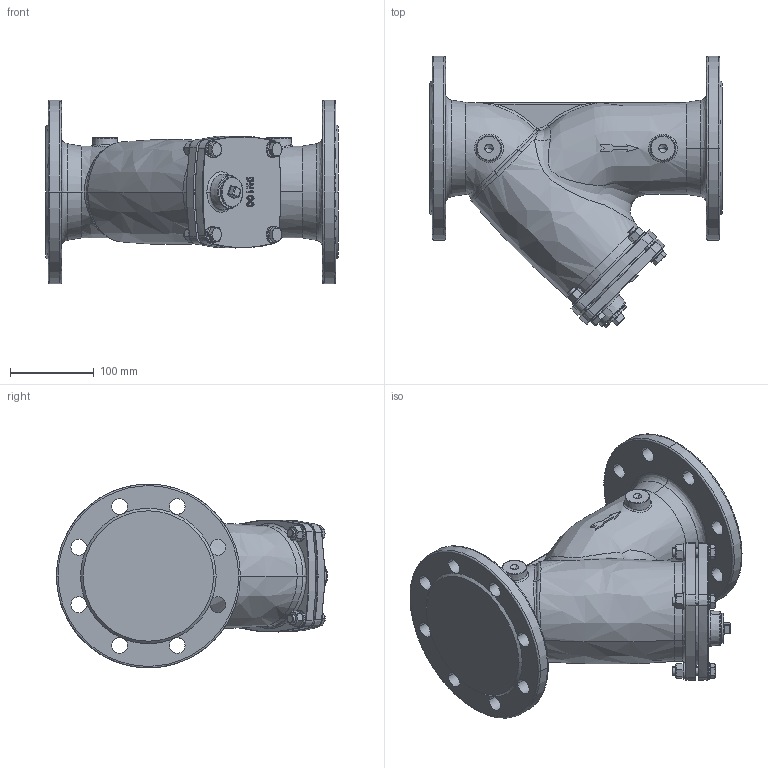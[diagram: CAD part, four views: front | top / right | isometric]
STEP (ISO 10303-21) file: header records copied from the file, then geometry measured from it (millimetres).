
FILE_DESCRIPTION (( 'STEP AP203' ), '1' );
FILE_NAME ('11.000C DN100.STEP', '2022-09-05T08:34:51', ( '' ), ( '' ), 'SwSTEP 2.0', 'SolidWorks 2017', '' );
FILE_SCHEMA (( 'CONFIG_CONTROL_DESIGN' ));
Length unit declared in the file: millimetre
Products named in the file (1): 11.000C DN100
Bounding box: 350 x 324.37 x 220 mm (x, y, z)
Volume: 6229315.6 mm3; surface area: 389515.3 mm2
Topology: 1 solids, 7 shells, 561 faces, 1398 edges, 890 vertices
Faces by surface type: plane 186, cylinder 159, bspline 105, cone 86, torus 25
Entity records: 54851 total; most frequent: CARTESIAN_POINT 42133, ORIENTED_EDGE 2780, DIRECTION 2431, EDGE_CURVE 1390, AXIS2_PLACEMENT_3D 995, VERTEX_POINT 890, EDGE_LOOP 648, ADVANCED_FACE 561
